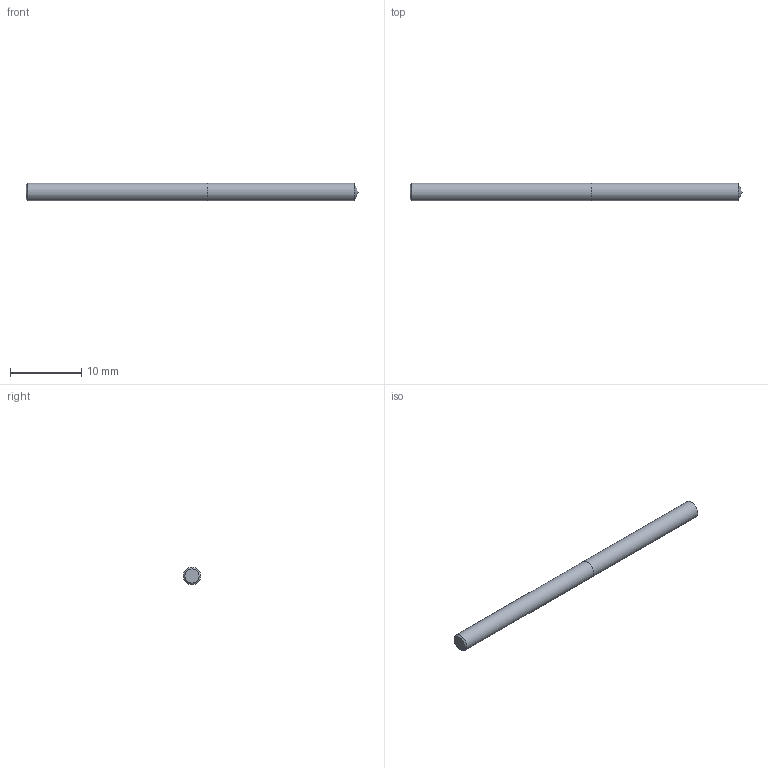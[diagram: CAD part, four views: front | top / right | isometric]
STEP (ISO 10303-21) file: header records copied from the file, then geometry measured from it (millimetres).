
FILE_DESCRIPTION (( 'STEP AP214' ), '1' );
FILE_NAME ('03-2382.STEP', '2022-06-03T07:01:06', ( 'USER' ), ( '' ), 'SwSTEP 2.0', 'SolidWorks 2018', '' );
FILE_SCHEMA (( 'AUTOMOTIVE_DESIGN' ));
Length unit declared in the file: inch
Products named in the file (1): 03-2382
Bounding box: 46.55 x 2.49 x 2.49 mm (x, y, z)
Volume: 224.6 mm3; surface area: 378.7 mm2
Topology: 2 solids, 2 shells, 7 faces, 11 edges, 7 vertices
Faces by surface type: plane 3, cylinder 2, cone 2
Full cylindrical faces by diameter (mm): 2.489 x2
Entity records: 214 total; most frequent: DIRECTION 26, CARTESIAN_POINT 18, AXIS2_PLACEMENT_3D 13, EDGE_LOOP 10, ORIENTED_EDGE 10, FACE_OUTER_BOUND 9, ADVANCED_FACE 7, DIMENSIONAL_EXPONENTS 7
